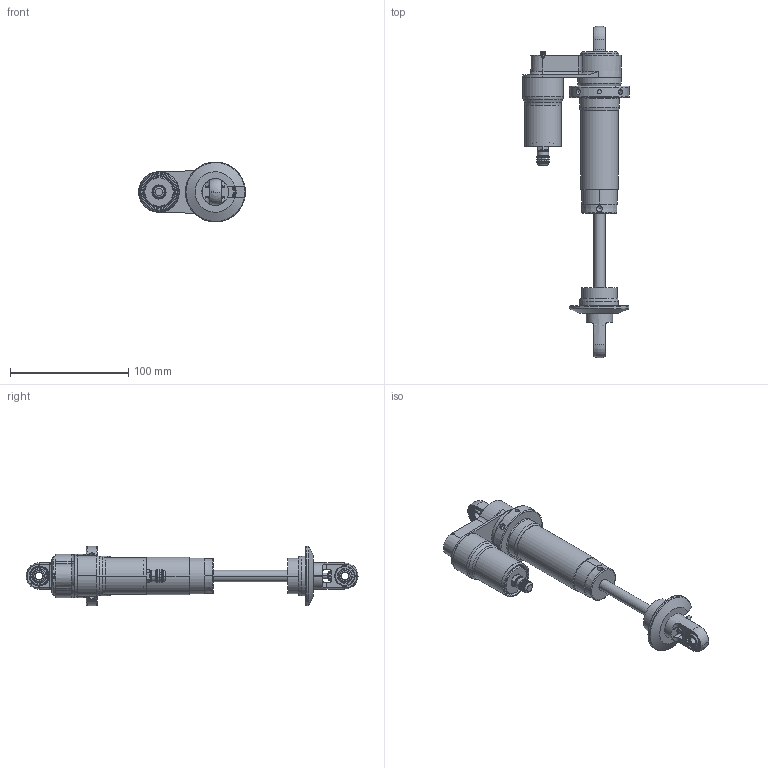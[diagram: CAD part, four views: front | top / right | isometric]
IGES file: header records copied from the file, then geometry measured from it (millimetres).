
Start section:  PTC IGES file: ps_78pb_da_3.igs
Global section: file name: ps_78pb_da_3.igs; native system: Pro/ENGINEER by Parametric Technology Corporation; preprocessor: 2008090; author: Reedgr; organization: Unknown; date: 20100621.112512; units: inch
Bounding box: 90.04 x 280.42 x 50.55 mm (x, y, z)
Surface area: 54265.5 mm2 (no closed solid volume)
Topology: 0 solids, 0 shells, 541 faces, 2887 edges, 2851 vertices
Faces by surface type: revolution 452, bspline 89
